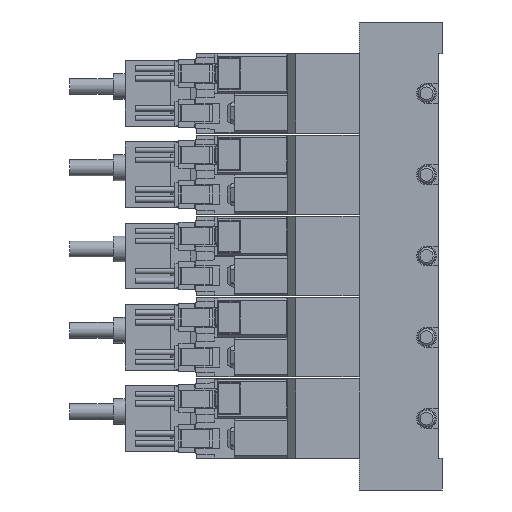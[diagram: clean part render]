
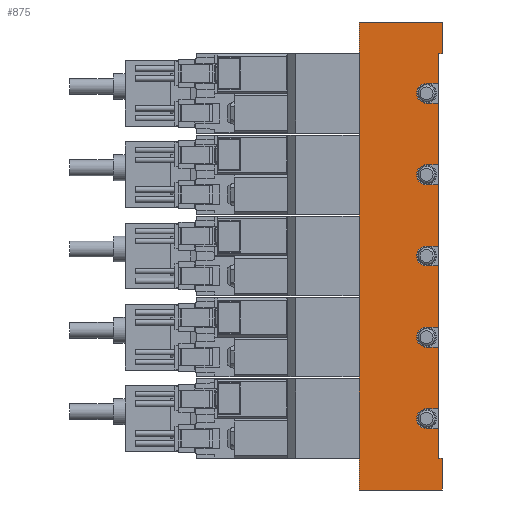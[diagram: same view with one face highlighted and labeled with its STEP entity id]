
A CAD part, left-side view. The second image highlights one B-rep face of the part: STEP entity #875.
In plain terms, the highlighted planar face has unit normal (-1, 0, 0) as drawn and (1, 0, 0) by its records, which use the part's own axes.
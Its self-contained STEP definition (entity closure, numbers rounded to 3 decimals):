
#875=ADVANCED_FACE('',(#1854),#1855,.F.);
#1854=FACE_OUTER_BOUND('',#3014,.T.);
#1855=PLANE('',#3015);
#3014=EDGE_LOOP('',(#6574,#6575,#6576,#6577,#6578,#6579,#6580,#6581,#6582,#6583,#6584,#6585,#6586,#6587,#6588,#6589,#6590,#6591,#6592,#6593,#6594,#6595,#6596,#6597,#6598,#6599,#6600,#6601));
#3015=AXIS2_PLACEMENT_3D('',#6602,#6603,#6604);
#6574=ORIENTED_EDGE('',*,*,#8279,.T.);
#6575=ORIENTED_EDGE('',*,*,#8280,.T.);
#6576=ORIENTED_EDGE('',*,*,#8281,.F.);
#6577=ORIENTED_EDGE('',*,*,#8282,.F.);
#6578=ORIENTED_EDGE('',*,*,#8283,.T.);
#6579=ORIENTED_EDGE('',*,*,#8284,.T.);
#6580=ORIENTED_EDGE('',*,*,#8285,.T.);
#6581=ORIENTED_EDGE('',*,*,#8272,.F.);
#6582=ORIENTED_EDGE('',*,*,#8286,.F.);
#6583=ORIENTED_EDGE('',*,*,#8287,.F.);
#6584=ORIENTED_EDGE('',*,*,#8288,.T.);
#6585=ORIENTED_EDGE('',*,*,#8289,.F.);
#6586=ORIENTED_EDGE('',*,*,#8268,.F.);
#6587=ORIENTED_EDGE('',*,*,#8290,.F.);
#6588=ORIENTED_EDGE('',*,*,#8291,.T.);
#6589=ORIENTED_EDGE('',*,*,#8292,.F.);
#6590=ORIENTED_EDGE('',*,*,#8293,.F.);
#6591=ORIENTED_EDGE('',*,*,#8294,.F.);
#6592=ORIENTED_EDGE('',*,*,#8295,.T.);
#6593=ORIENTED_EDGE('',*,*,#8296,.F.);
#6594=ORIENTED_EDGE('',*,*,#8297,.F.);
#6595=ORIENTED_EDGE('',*,*,#8298,.F.);
#6596=ORIENTED_EDGE('',*,*,#8299,.T.);
#6597=ORIENTED_EDGE('',*,*,#8300,.F.);
#6598=ORIENTED_EDGE('',*,*,#8301,.F.);
#6599=ORIENTED_EDGE('',*,*,#8302,.F.);
#6600=ORIENTED_EDGE('',*,*,#8303,.T.);
#6601=ORIENTED_EDGE('',*,*,#8304,.T.);
#6602=CARTESIAN_POINT('',(17.5,1.0,59.0));
#6603=DIRECTION('',(-1.0,0.0,0.0));
#6604=DIRECTION('',(0.0,0.0,1.0));
#8268=EDGE_CURVE('',#10181,#10183,#10184,.T.);
#8272=EDGE_CURVE('',#10190,#10191,#10192,.T.);
#8279=EDGE_CURVE('',#10204,#10205,#10206,.T.);
#8280=EDGE_CURVE('',#10205,#10207,#10208,.T.);
#8281=EDGE_CURVE('',#10209,#10207,#10210,.T.);
#8282=EDGE_CURVE('',#10211,#10209,#10212,.T.);
#8283=EDGE_CURVE('',#10211,#10213,#10214,.T.);
#8284=EDGE_CURVE('',#10213,#10215,#10216,.T.);
#8285=EDGE_CURVE('',#10215,#10191,#10217,.T.);
#8286=EDGE_CURVE('',#10218,#10190,#10219,.T.);
#8287=EDGE_CURVE('',#10220,#10218,#10221,.T.);
#8288=EDGE_CURVE('',#10220,#10222,#10223,.T.);
#8289=EDGE_CURVE('',#10183,#10222,#10224,.T.);
#8290=EDGE_CURVE('',#10225,#10181,#10226,.T.);
#8291=EDGE_CURVE('',#10225,#10227,#10228,.T.);
#8292=EDGE_CURVE('',#10229,#10227,#10230,.T.);
#8293=EDGE_CURVE('',#10231,#10229,#10232,.T.);
#8294=EDGE_CURVE('',#10233,#10231,#10234,.T.);
#8295=EDGE_CURVE('',#10233,#10235,#10236,.T.);
#8296=EDGE_CURVE('',#10237,#10235,#10238,.T.);
#8297=EDGE_CURVE('',#10239,#10237,#10240,.T.);
#8298=EDGE_CURVE('',#10241,#10239,#10242,.T.);
#8299=EDGE_CURVE('',#10241,#10243,#10244,.T.);
#8300=EDGE_CURVE('',#10245,#10243,#10246,.T.);
#8301=EDGE_CURVE('',#10247,#10245,#10248,.T.);
#8302=EDGE_CURVE('',#10249,#10247,#10250,.T.);
#8303=EDGE_CURVE('',#10249,#10251,#10252,.T.);
#8304=EDGE_CURVE('',#10251,#10204,#10253,.T.);
#10181=VERTEX_POINT('',#13315);
#10183=VERTEX_POINT('',#13318);
#10184=CIRCLE('',#13319,2.5);
#10190=VERTEX_POINT('',#13326);
#10191=VERTEX_POINT('',#13327);
#10192=LINE('',#13328,#13329);
#10204=VERTEX_POINT('',#13345);
#10205=VERTEX_POINT('',#13346);
#10206=LINE('',#13347,#13348);
#10207=VERTEX_POINT('',#13349);
#10208=LINE('',#13350,#13351);
#10209=VERTEX_POINT('',#13352);
#10210=LINE('',#13353,#13354);
#10211=VERTEX_POINT('',#13355);
#10212=LINE('',#13356,#13357);
#10213=VERTEX_POINT('',#13358);
#10214=LINE('',#13359,#13360);
#10215=VERTEX_POINT('',#13361);
#10216=LINE('',#13362,#13363);
#10217=LINE('',#13364,#13365);
#10218=VERTEX_POINT('',#13366);
#10219=CIRCLE('',#13367,2.5);
#10220=VERTEX_POINT('',#13368);
#10221=LINE('',#13369,#13370);
#10222=VERTEX_POINT('',#13371);
#10223=LINE('',#13372,#13373);
#10224=LINE('',#13374,#13375);
#10225=VERTEX_POINT('',#13376);
#10226=LINE('',#13377,#13378);
#10227=VERTEX_POINT('',#13379);
#10228=LINE('',#13380,#13381);
#10229=VERTEX_POINT('',#13382);
#10230=LINE('',#13383,#13384);
#10231=VERTEX_POINT('',#13385);
#10232=CIRCLE('',#13386,2.5);
#10233=VERTEX_POINT('',#13387);
#10234=LINE('',#13388,#13389);
#10235=VERTEX_POINT('',#13390);
#10236=LINE('',#13391,#13392);
#10237=VERTEX_POINT('',#13393);
#10238=LINE('',#13394,#13395);
#10239=VERTEX_POINT('',#13396);
#10240=CIRCLE('',#13397,2.5);
#10241=VERTEX_POINT('',#13398);
#10242=LINE('',#13399,#13400);
#10243=VERTEX_POINT('',#13401);
#10244=LINE('',#13402,#13403);
#10245=VERTEX_POINT('',#13404);
#10246=LINE('',#13405,#13406);
#10247=VERTEX_POINT('',#13407);
#10248=CIRCLE('',#13408,2.5);
#10249=VERTEX_POINT('',#13409);
#10250=LINE('',#13410,#13411);
#10251=VERTEX_POINT('',#13412);
#10252=LINE('',#13413,#13414);
#10253=LINE('',#13415,#13416);
#13315=CARTESIAN_POINT('',(17.5,4.0,18.0));
#13318=CARTESIAN_POINT('',(17.5,4.0,23.0));
#13319=AXIS2_PLACEMENT_3D('',#15190,#15191,#15192);
#13326=CARTESIAN_POINT('',(17.5,4.0,43.5));
#13327=CARTESIAN_POINT('',(17.5,1.0,43.5));
#13328=CARTESIAN_POINT('',(17.5,1.0,43.5));
#13329=VECTOR('',#15200,1.0);
#13345=CARTESIAN_POINT('',(17.5,0.0,-51.0));
#13346=CARTESIAN_POINT('',(17.5,0.0,-59.0));
#13347=CARTESIAN_POINT('',(17.5,0.0,-51.0));
#13348=VECTOR('',#15211,1.0);
#13349=CARTESIAN_POINT('',(17.5,21.0,-59.0));
#13350=CARTESIAN_POINT('',(17.5,1.0,-59.0));
#13351=VECTOR('',#15212,1.0);
#13352=CARTESIAN_POINT('',(17.5,21.0,59.0));
#13353=CARTESIAN_POINT('',(17.5,21.0,59.0));
#13354=VECTOR('',#15213,1.0);
#13355=CARTESIAN_POINT('',(17.5,0.0,59.0));
#13356=CARTESIAN_POINT('',(17.5,1.0,59.0));
#13357=VECTOR('',#15214,1.0);
#13358=CARTESIAN_POINT('',(17.5,0.0,51.0));
#13359=CARTESIAN_POINT('',(17.5,0.0,59.0));
#13360=VECTOR('',#15215,1.0);
#13361=CARTESIAN_POINT('',(17.5,1.0,51.0));
#13362=CARTESIAN_POINT('',(17.5,0.0,51.0));
#13363=VECTOR('',#15216,1.0);
#13364=CARTESIAN_POINT('',(17.5,1.0,59.0));
#13365=VECTOR('',#15217,1.0);
#13366=CARTESIAN_POINT('',(17.5,4.0,38.5));
#13367=AXIS2_PLACEMENT_3D('',#15218,#15219,#15220);
#13368=CARTESIAN_POINT('',(17.5,1.0,38.5));
#13369=CARTESIAN_POINT('',(17.5,1.0,38.5));
#13370=VECTOR('',#15221,1.0);
#13371=CARTESIAN_POINT('',(17.5,1.0,23.0));
#13372=CARTESIAN_POINT('',(17.5,1.0,59.0));
#13373=VECTOR('',#15222,1.0);
#13374=CARTESIAN_POINT('',(17.5,1.0,23.0));
#13375=VECTOR('',#15223,1.0);
#13376=CARTESIAN_POINT('',(17.5,1.0,18.0));
#13377=CARTESIAN_POINT('',(17.5,1.0,18.0));
#13378=VECTOR('',#15224,1.0);
#13379=CARTESIAN_POINT('',(17.5,1.0,2.5));
#13380=CARTESIAN_POINT('',(17.5,1.0,59.0));
#13381=VECTOR('',#15225,1.0);
#13382=CARTESIAN_POINT('',(17.5,4.0,2.5));
#13383=CARTESIAN_POINT('',(17.5,1.0,2.5));
#13384=VECTOR('',#15226,1.0);
#13385=CARTESIAN_POINT('',(17.5,4.0,-2.5));
#13386=AXIS2_PLACEMENT_3D('',#15227,#15228,#15229);
#13387=CARTESIAN_POINT('',(17.5,1.0,-2.5));
#13388=CARTESIAN_POINT('',(17.5,1.0,-2.5));
#13389=VECTOR('',#15230,1.0);
#13390=CARTESIAN_POINT('',(17.5,1.0,-18.0));
#13391=CARTESIAN_POINT('',(17.5,1.0,59.0));
#13392=VECTOR('',#15231,1.0);
#13393=CARTESIAN_POINT('',(17.5,4.0,-18.0));
#13394=CARTESIAN_POINT('',(17.5,1.0,-18.0));
#13395=VECTOR('',#15232,1.0);
#13396=CARTESIAN_POINT('',(17.5,4.0,-23.0));
#13397=AXIS2_PLACEMENT_3D('',#15233,#15234,#15235);
#13398=CARTESIAN_POINT('',(17.5,1.0,-23.0));
#13399=CARTESIAN_POINT('',(17.5,1.0,-23.0));
#13400=VECTOR('',#15236,1.0);
#13401=CARTESIAN_POINT('',(17.5,1.0,-38.5));
#13402=CARTESIAN_POINT('',(17.5,1.0,59.0));
#13403=VECTOR('',#15237,1.0);
#13404=CARTESIAN_POINT('',(17.5,4.0,-38.5));
#13405=CARTESIAN_POINT('',(17.5,1.0,-38.5));
#13406=VECTOR('',#15238,1.0);
#13407=CARTESIAN_POINT('',(17.5,4.0,-43.5));
#13408=AXIS2_PLACEMENT_3D('',#15239,#15240,#15241);
#13409=CARTESIAN_POINT('',(17.5,1.0,-43.5));
#13410=CARTESIAN_POINT('',(17.5,1.0,-43.5));
#13411=VECTOR('',#15242,1.0);
#13412=CARTESIAN_POINT('',(17.5,1.0,-51.0));
#13413=CARTESIAN_POINT('',(17.5,1.0,59.0));
#13414=VECTOR('',#15243,1.0);
#13415=CARTESIAN_POINT('',(17.5,4.0,-51.0));
#13416=VECTOR('',#15244,1.0);
#15190=CARTESIAN_POINT('',(17.5,4.0,20.5));
#15191=DIRECTION('',(1.0,0.0,-0.0));
#15192=DIRECTION('',(0.0,0.0,1.0));
#15200=DIRECTION('',(0.0,-1.0,0.0));
#15211=DIRECTION('',(0.0,0.0,-1.0));
#15212=DIRECTION('',(0.0,1.0,0.0));
#15213=DIRECTION('',(0.0,0.0,-1.0));
#15214=DIRECTION('',(0.0,1.0,0.0));
#15215=DIRECTION('',(0.0,0.0,-1.0));
#15216=DIRECTION('',(0.0,1.0,0.0));
#15217=DIRECTION('',(0.0,0.0,-1.0));
#15218=CARTESIAN_POINT('',(17.5,4.0,41.0));
#15219=DIRECTION('',(1.0,0.0,-0.0));
#15220=DIRECTION('',(0.0,0.0,1.0));
#15221=DIRECTION('',(0.0,1.0,0.0));
#15222=DIRECTION('',(0.0,0.0,-1.0));
#15223=DIRECTION('',(0.0,-1.0,0.0));
#15224=DIRECTION('',(0.0,1.0,0.0));
#15225=DIRECTION('',(0.0,0.0,-1.0));
#15226=DIRECTION('',(0.0,-1.0,0.0));
#15227=CARTESIAN_POINT('',(17.5,4.0,0.0));
#15228=DIRECTION('',(1.0,0.0,-0.0));
#15229=DIRECTION('',(0.0,0.0,1.0));
#15230=DIRECTION('',(0.0,1.0,0.0));
#15231=DIRECTION('',(0.0,0.0,-1.0));
#15232=DIRECTION('',(0.0,-1.0,0.0));
#15233=CARTESIAN_POINT('',(17.5,4.0,-20.5));
#15234=DIRECTION('',(1.0,0.0,-0.0));
#15235=DIRECTION('',(0.0,0.0,1.0));
#15236=DIRECTION('',(0.0,1.0,0.0));
#15237=DIRECTION('',(0.0,0.0,-1.0));
#15238=DIRECTION('',(0.0,-1.0,0.0));
#15239=CARTESIAN_POINT('',(17.5,4.0,-41.0));
#15240=DIRECTION('',(1.0,0.0,-0.0));
#15241=DIRECTION('',(0.0,0.0,1.0));
#15242=DIRECTION('',(0.0,1.0,0.0));
#15243=DIRECTION('',(0.0,0.0,-1.0));
#15244=DIRECTION('',(0.0,-1.0,0.0));
